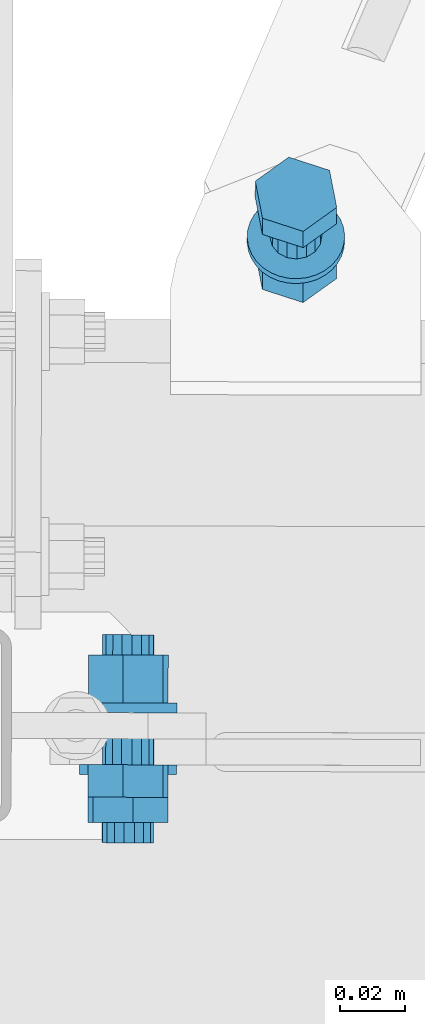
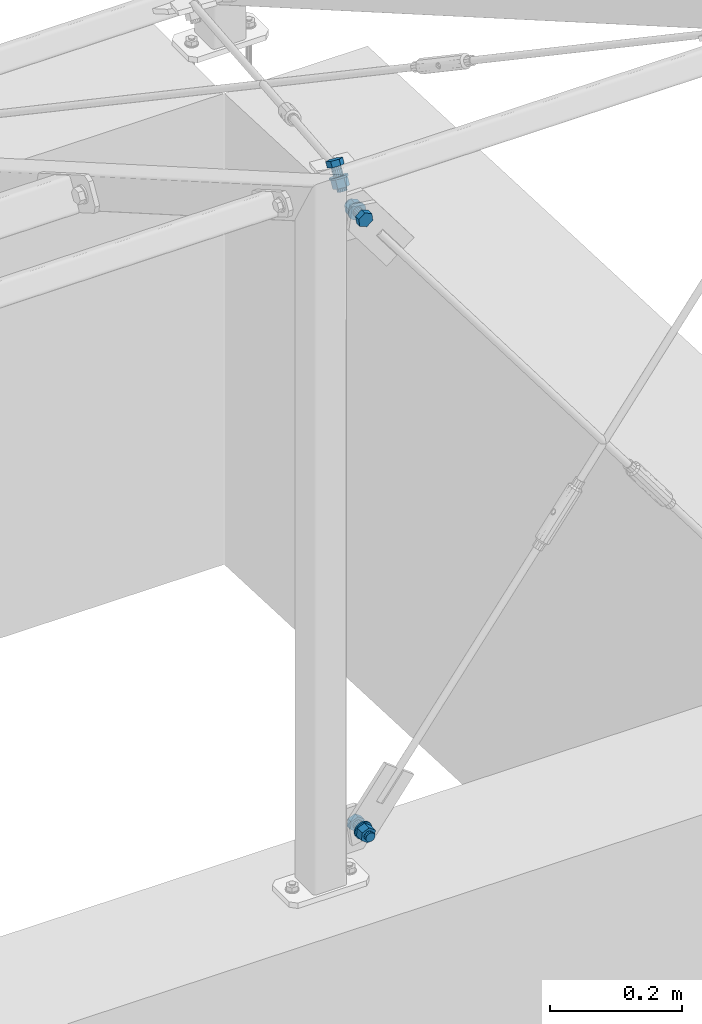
# One storey, part 226 of 288: 3 mechanical fasteners.
"""IFC2X3 building model written with IfcOpenShell, lengths in millimetres."""

from ifc_helpers import new_model, entity, si_unit, converted_unit, origin_with_axes, place, context, project, spatial, faceted_brep, element, save


model = new_model("IFC2X3")

# Units and contexts
model_context = context("Model", 3, precision=1e-09, world=origin_with_axes())
ifc_project = project(units=[si_unit("LENGTHUNIT", "METRE", prefix="MILLI"), si_unit("AREAUNIT", "SQUARE_METRE"), si_unit("VOLUMEUNIT", "CUBIC_METRE"), converted_unit("PLANEANGLEUNIT", "DEGREE", entity("IfcPlaneAngleMeasure", 0.01745329), si_unit("PLANEANGLEUNIT", "RADIAN"), dimensions=[0, 0, 0, 0, 0, 0, 0])], contexts=[model_context])

# Site, building, storey
site_placement = place(None, origin_with_axes())
site = spatial("IfcSite", under=ifc_project, at=site_placement, Name="Remont ?wietlik?w nad MC w NCPP w Opolu", CompositionType="ELEMENT")
building_placement = place(site_placement, origin_with_axes())
building = spatial("IfcBuilding", under=site, at=building_placement, Name="Konstrukcja 1", CompositionType="ELEMENT")
storey_placement = place(building_placement, origin_with_axes())
storey = spatial("IfcBuildingStorey", under=building, at=storey_placement, Name="Default Storey", CompositionType="ELEMENT", Elevation=0.0)

# Mechanical fasteners
mechanical_fastener_1_placement = place(None, origin_with_axes())
element("IfcMechanicalFastener", 1, at=mechanical_fastener_1_placement, inside=storey, ObjectType="Bolt#1", NominalDiameter=16.0, NominalLength=40.0, context=model_context, shape_type="Brep", body=[
    faceted_brep([(10182.727743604, -143.96378744, 101.402567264), (10182.750206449, -133.963812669, 101.402567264), (10170.455755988, -133.936195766, 96.136036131), (10170.433293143, -143.936170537, 96.136036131), (10168.869469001, -133.932632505, 82.855437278), (10168.847006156, -143.932607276, 82.855437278), (10179.577632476, -133.956686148, 74.841369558), (10179.555169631, -143.956660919, 74.841369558), (10191.872082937, -133.984303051, 80.10790069), (10191.849620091, -143.984277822, 80.10790069), (10193.458369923, -133.987866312, 93.388499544), (10193.435907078, -143.987841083, 93.388499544)], [[[0, 1, 2, 3]], [[3, 2, 4, 5]], [[5, 4, 6, 7]], [[7, 6, 8, 9]], [[9, 8, 10, 11]], [[11, 10, 1, 0]], [[4, 2, 1, 10, 8, 6]], [[0, 3, 5, 7, 9, 11]]]),
    faceted_brep([(10176.348007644, -143.949456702, 81.717069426), (10176.312067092, -159.949416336, 81.717069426), (10174.225904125, -159.944730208, 84.038991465), (10174.261844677, -143.944770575, 84.038991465), (10173.187099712, -159.942396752, 86.982509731), (10173.223040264, -143.942437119, 86.982509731), (10173.353802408, -159.942771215, 90.099500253), (10173.38974296, -143.942811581, 90.099500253), (10174.700633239, -159.945796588, 92.915429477), (10174.736573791, -143.945836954, 92.915429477), (10177.02254942, -159.951012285, 95.001597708), (10177.058489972, -143.951052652, 95.001597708), (10179.96606026, -159.957624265, 96.040404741), (10180.002000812, -143.957664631, 96.040404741), (10183.083042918, -159.964625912, 95.873701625), (10183.11898347, -143.964666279, 95.873701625), (10185.898965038, -159.97095129, 94.526867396), (10185.93490559, -143.970991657, 94.526867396), (10187.985128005, -159.975637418, 92.204945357), (10188.021068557, -143.975677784, 92.204945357), (10189.023932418, -159.977970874, 89.26142709), (10189.05987297, -143.97801124, 89.26142709), (10188.857229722, -159.977596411, 86.144436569), (10188.893170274, -143.977636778, 86.144436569), (10187.510398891, -159.974571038, 83.328507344), (10187.546339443, -143.974611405, 83.328507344), (10185.18848271, -159.969355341, 81.242339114), (10185.224423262, -143.969395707, 81.242339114), (10182.24497187, -159.962743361, 80.203532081), (10182.280912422, -143.962783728, 80.203532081), (10179.127989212, -159.955741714, 80.370235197), (10179.163929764, -143.95578208, 80.370235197)], [[[0, 1, 2, 3]], [[3, 2, 4, 5]], [[5, 4, 6, 7]], [[7, 6, 8, 9]], [[9, 8, 10, 11]], [[11, 10, 12, 13]], [[13, 12, 14, 15]], [[15, 14, 16, 17]], [[17, 16, 18, 19]], [[19, 18, 20, 21]], [[21, 20, 22, 23]], [[23, 22, 24, 25]], [[25, 24, 26, 27]], [[27, 26, 28, 29]], [[29, 28, 30, 31]], [[31, 30, 1, 0]], [[0, 3, 5, 7, 9, 11, 13, 15, 17, 19, 21, 23, 25, 27, 29, 31]], [[1, 30, 28, 26, 24, 22, 20, 18, 16, 14, 12, 10, 8, 6, 4, 2]]]),
    faceted_brep([(10172.11779924, -159.939994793, 76.112782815), (10172.111060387, -162.939987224, 76.112782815), (10169.940886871, -162.935112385, 78.096956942), (10169.947625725, -159.935119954, 78.096956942), (10168.199504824, -162.931200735, 80.466386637), (10168.206243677, -159.931208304, 80.466386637), (10166.95383458, -162.928402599, 83.130016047), (10166.960573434, -159.928410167, 83.130016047), (10166.25174655, -162.926825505, 85.985483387), (10166.258485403, -159.926833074, 85.985483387), (10166.120221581, -162.926530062, 88.923054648), (10166.126960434, -159.926537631, 88.923054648), (10166.564314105, -162.927527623, 91.829840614), (10166.571052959, -159.927535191, 91.829840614), (10167.566957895, -162.929779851, 94.594135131), (10167.573696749, -159.92978742, 94.594135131), (10169.089621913, -162.933200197, 97.109707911), (10169.096360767, -159.933207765, 97.109707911), (10171.073791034, -162.937657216, 99.279886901), (10171.080529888, -159.937664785, 99.279886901), (10173.443214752, -162.94297963, 101.021273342), (10173.449953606, -159.942987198, 101.021273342), (10176.106837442, -162.948962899, 102.266946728), (10176.113576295, -159.948970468, 102.266946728), (10178.962297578, -162.955377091, 102.96903653), (10178.969036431, -159.95538466, 102.96903653), (10181.899861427, -162.961975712, 103.100561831), (10181.906600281, -159.961983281, 103.100561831), (10184.80664006, -162.96850518, 102.656468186), (10184.813378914, -159.968512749, 102.656468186), (10187.570927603, -162.974714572, 101.653821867), (10187.577666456, -159.974722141, 101.653821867), (10190.086494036, -162.980365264, 100.131154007), (10190.093232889, -159.980372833, 100.131154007), (10192.256667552, -162.985240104, 98.14697988), (10192.263406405, -159.985247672, 98.14697988), (10193.998049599, -162.989151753, 95.777550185), (10194.004788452, -159.989159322, 95.777550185), (10195.243719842, -162.99194989, 93.113920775), (10195.250458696, -159.991957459, 93.113920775), (10195.945807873, -162.993526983, 90.258453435), (10195.952546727, -159.993534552, 90.258453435), (10196.077332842, -162.993822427, 87.320882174), (10196.084071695, -159.993829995, 87.320882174), (10195.633240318, -162.992824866, 84.414096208), (10195.639979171, -159.992832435, 84.414096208), (10194.630596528, -162.990572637, 81.649801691), (10194.637335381, -159.990580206, 81.649801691), (10193.10793251, -162.987152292, 79.134228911), (10193.114671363, -159.987159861, 79.134228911), (10191.123763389, -162.982695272, 76.96404992), (10191.130502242, -159.982702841, 76.96404992), (10188.754339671, -162.977372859, 75.22266348), (10188.761078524, -159.977380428, 75.22266348), (10186.090716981, -162.97138959, 73.976990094), (10186.097455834, -159.971397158, 73.976990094), (10183.235256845, -162.964975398, 73.274900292), (10183.241995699, -159.964982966, 73.274900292), (10180.297692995, -162.958376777, 73.143374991), (10180.304431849, -159.958384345, 73.143374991), (10177.390914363, -162.951847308, 73.587468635), (10177.397653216, -159.951854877, 73.587468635), (10174.62662682, -162.945637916, 74.590114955), (10174.633365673, -159.945645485, 74.590114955)], [[[0, 1, 2, 3]], [[3, 2, 4, 5]], [[5, 4, 6, 7]], [[7, 6, 8, 9]], [[9, 8, 10, 11]], [[11, 10, 12, 13]], [[13, 12, 14, 15]], [[15, 14, 16, 17]], [[17, 16, 18, 19]], [[19, 18, 20, 21]], [[21, 20, 22, 23]], [[23, 22, 24, 25]], [[25, 24, 26, 27]], [[27, 26, 28, 29]], [[29, 28, 30, 31]], [[31, 30, 32, 33]], [[33, 32, 34, 35]], [[35, 34, 36, 37]], [[37, 36, 38, 39]], [[39, 38, 40, 41]], [[41, 40, 42, 43]], [[43, 42, 44, 45]], [[45, 44, 46, 47]], [[47, 46, 48, 49]], [[49, 48, 50, 51]], [[51, 50, 52, 53]], [[53, 52, 54, 55]], [[55, 54, 56, 57]], [[57, 56, 58, 59]], [[59, 58, 60, 61]], [[61, 60, 62, 63]], [[63, 62, 1, 0]], [[0, 3, 5, 7, 9, 11, 13, 15, 17, 19, 21, 23, 25, 27, 29, 31, 33, 35, 37, 39, 41, 43, 45, 47, 49, 51, 53, 55, 57, 59, 61, 63]], [[1, 62, 60, 58, 56, 54, 52, 50, 48, 46, 44, 42, 40, 38, 36, 34, 32, 30, 28, 26, 24, 22, 20, 18, 16, 14, 12, 10, 8, 6, 4, 2]]]),
    faceted_brep([(10182.651819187, -177.763702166, 101.402567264), (10182.685064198, -162.963739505, 101.402567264), (10170.390613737, -162.936122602, 96.136036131), (10170.357368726, -177.736085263, 96.136036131), (10168.804326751, -162.932559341, 82.855437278), (10168.77108174, -177.732522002, 82.855437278), (10179.512490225, -162.956612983, 74.841369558), (10179.479245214, -177.756575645, 74.841369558), (10191.806940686, -162.984229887, 80.10790069), (10191.773695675, -177.784192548, 80.10790069), (10193.393227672, -162.987793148, 93.388499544), (10193.359982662, -177.787755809, 93.388499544)], [[[0, 1, 2, 3]], [[3, 2, 4, 5]], [[5, 4, 6, 7]], [[7, 6, 8, 9]], [[9, 8, 10, 11]], [[11, 10, 1, 0]], [[4, 2, 1, 10, 8, 6]], [[0, 3, 5, 7, 9, 11]]]),
    faceted_brep([(10176.272083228, -177.749371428, 81.717069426), (10176.258156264, -183.949355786, 81.717069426), (10174.171993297, -183.944669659, 84.038991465), (10174.185920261, -177.744685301, 84.038991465), (10173.133188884, -183.942336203, 86.982509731), (10173.147115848, -177.742351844, 86.982509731), (10173.29989158, -183.942710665, 90.099500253), (10173.313818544, -177.742726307, 90.099500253), (10174.646722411, -183.945736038, 92.915429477), (10174.660649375, -177.74575168, 92.915429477), (10176.968638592, -183.950951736, 95.001597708), (10176.982565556, -177.750967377, 95.001597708), (10179.912149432, -183.957563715, 96.040404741), (10179.926076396, -177.757579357, 96.040404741), (10183.029132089, -183.964565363, 95.873701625), (10183.043059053, -177.764581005, 95.873701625), (10185.84505421, -183.970890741, 94.526867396), (10185.858981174, -177.770906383, 94.526867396), (10187.931217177, -183.975576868, 92.204945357), (10187.945144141, -177.77559251, 92.204945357), (10188.97002159, -183.977910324, 89.26142709), (10188.983948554, -177.777925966, 89.26142709), (10188.803318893, -183.977535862, 86.144436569), (10188.817245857, -177.777551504, 86.144436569), (10187.456488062, -183.974510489, 83.328507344), (10187.470415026, -177.774526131, 83.328507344), (10185.134571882, -183.969294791, 81.242339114), (10185.148498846, -177.769310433, 81.242339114), (10182.191061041, -183.962682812, 80.203532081), (10182.204988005, -177.762698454, 80.203532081), (10179.074078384, -183.955681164, 80.370235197), (10179.088005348, -177.755696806, 80.370235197)], [[[0, 1, 2, 3]], [[3, 2, 4, 5]], [[5, 4, 6, 7]], [[7, 6, 8, 9]], [[9, 8, 10, 11]], [[11, 10, 12, 13]], [[13, 12, 14, 15]], [[15, 14, 16, 17]], [[17, 16, 18, 19]], [[19, 18, 20, 21]], [[21, 20, 22, 23]], [[23, 22, 24, 25]], [[25, 24, 26, 27]], [[27, 26, 28, 29]], [[29, 28, 30, 31]], [[31, 30, 1, 0]], [[0, 3, 5, 7, 9, 11, 13, 15, 17, 19, 21, 23, 25, 27, 29, 31]], [[1, 30, 28, 26, 24, 22, 20, 18, 16, 14, 12, 10, 8, 6, 4, 2]]]),
])
mechanical_fastener_2_placement = place(None, origin_with_axes())
element("IfcMechanicalFastener", 2, at=mechanical_fastener_2_placement, inside=storey, ObjectType="Bolt#1", NominalDiameter=16.0, NominalLength=40.0, context=model_context, shape_type="Brep", body=[
    faceted_brep([(10182.691707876, -159.95056203, 1206.597433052), (10182.668932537, -169.950536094, 1206.597433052), (10170.374482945, -169.922534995, 1211.863964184), (10170.397258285, -159.922560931, 1211.863964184), (10168.788196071, -169.918922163, 1225.144563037), (10168.81097141, -159.918948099, 1225.144563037), (10179.496358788, -169.943310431, 1233.158630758), (10179.519134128, -159.943336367, 1233.158630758), (10191.79080838, -169.97131153, 1227.892099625), (10191.81358372, -159.971337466, 1227.892099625), (10193.377095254, -169.974924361, 1214.611500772), (10193.399870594, -159.974950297, 1214.611500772)], [[[0, 1, 2, 3]], [[3, 2, 4, 5]], [[5, 4, 6, 7]], [[7, 6, 8, 9]], [[9, 8, 10, 11]], [[11, 10, 1, 0]], [[4, 2, 1, 10, 8, 6]], [[0, 3, 5, 7, 9, 11]]]),
    faceted_brep([(10176.311972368, -159.936031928, 1226.282930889), (10176.348412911, -143.936073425, 1226.282930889), (10174.262250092, -143.931322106, 1223.961008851), (10174.225809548, -159.931280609, 1223.961008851), (10173.223445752, -143.928956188, 1221.017490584), (10173.187005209, -159.928914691, 1221.017490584), (10173.390148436, -143.92933586, 1217.900500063), (10173.353707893, -159.929294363, 1217.900500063), (10174.736979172, -143.932403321, 1215.084570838), (10174.700538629, -159.932361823, 1215.084570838), (10177.058895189, -143.937691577, 1212.998402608), (10177.022454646, -159.93765008, 1212.998402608), (10180.002405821, -143.94439554, 1211.959595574), (10179.965965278, -159.944354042, 1211.959595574), (10183.119388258, -143.951494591, 1212.126298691), (10183.082947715, -159.951453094, 1212.126298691), (10185.93531018, -143.957907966, 1213.47313292), (10185.898869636, -159.957866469, 1213.47313292), (10188.021472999, -143.962659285, 1215.795054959), (10187.985032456, -159.962617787, 1215.795054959), (10189.060277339, -143.965025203, 1218.738573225), (10189.023836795, -159.964983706, 1218.738573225), (10188.893574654, -143.964645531, 1221.855563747), (10188.857134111, -159.964604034, 1221.855563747), (10187.546743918, -143.96157807, 1224.671492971), (10187.510303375, -159.961536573, 1224.671492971), (10185.224827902, -143.956289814, 1226.757661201), (10185.188387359, -159.956248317, 1226.757661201), (10182.28131727, -143.949585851, 1227.796468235), (10182.244876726, -159.949544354, 1227.796468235), (10179.164334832, -143.9424868, 1227.629765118), (10179.127894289, -159.942445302, 1227.629765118)], [[[0, 1, 2, 3]], [[3, 2, 4, 5]], [[5, 4, 6, 7]], [[7, 6, 8, 9]], [[9, 8, 10, 11]], [[11, 10, 12, 13]], [[13, 12, 14, 15]], [[15, 14, 16, 17]], [[17, 16, 18, 19]], [[19, 18, 20, 21]], [[21, 20, 22, 23]], [[23, 22, 24, 25]], [[25, 24, 26, 27]], [[27, 26, 28, 29]], [[29, 28, 30, 31]], [[31, 30, 1, 0]], [[0, 3, 5, 7, 9, 11, 13, 15, 17, 19, 21, 23, 25, 27, 29, 31]], [[1, 30, 28, 26, 24, 22, 20, 18, 16, 14, 12, 10, 8, 6, 4, 2]]]),
    faceted_brep([(10172.154145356, -143.926520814, 1231.887217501), (10172.160977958, -140.926528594, 1231.887217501), (10169.990804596, -140.921585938, 1229.903043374), (10169.983971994, -143.921578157, 1229.903043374), (10168.249422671, -140.917619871, 1227.533613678), (10168.24259007, -143.917612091, 1227.533613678), (10167.003752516, -140.914782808, 1224.869984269), (10166.996919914, -143.914775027, 1224.869984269), (10166.301664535, -140.913183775, 1222.014516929), (10166.294831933, -143.913175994, 1222.014516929), (10166.170139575, -140.912884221, 1219.076945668), (10166.163306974, -143.91287644, 1219.076945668), (10166.614232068, -140.91389566, 1216.170159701), (10166.607399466, -143.913887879, 1216.170159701), (10167.616875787, -140.916179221, 1213.405865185), (10167.610043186, -143.91617144, 1213.405865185), (10169.139539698, -140.919647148, 1210.890292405), (10169.132707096, -143.919639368, 1210.890292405), (10171.123708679, -140.924166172, 1208.720113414), (10171.116876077, -143.924158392, 1208.720113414), (10173.493132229, -140.929562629, 1206.978726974), (10173.486299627, -143.929554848, 1206.978726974), (10176.15675473, -140.935629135, 1205.733053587), (10176.149922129, -143.935621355, 1205.733053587), (10179.012214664, -140.942132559, 1205.030963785), (10179.005382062, -143.942124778, 1205.030963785), (10181.949778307, -140.948822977, 1204.899438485), (10181.942945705, -143.948815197, 1204.899438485), (10184.856556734, -140.955443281, 1205.343532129), (10184.849724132, -143.9554355, 1205.343532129), (10187.620844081, -140.961739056, 1206.346178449), (10187.614011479, -143.961731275, 1206.346178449), (10190.136410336, -140.967468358, 1207.868846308), (10190.129577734, -143.967460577, 1207.868846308), (10192.306583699, -140.972411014, 1209.853020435), (10192.299751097, -143.972403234, 1209.853020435), (10194.047965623, -140.976377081, 1212.222450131), (10194.041133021, -143.9763693, 1212.222450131), (10195.293635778, -140.979214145, 1214.886079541), (10195.286803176, -143.979206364, 1214.886079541), (10195.995723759, -140.980813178, 1217.741546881), (10195.988891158, -143.980805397, 1217.741546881), (10196.127248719, -140.981112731, 1220.679118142), (10196.120416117, -143.981104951, 1220.679118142), (10195.683156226, -140.980101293, 1223.585904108), (10195.676323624, -143.980093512, 1223.585904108), (10194.680512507, -140.977817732, 1226.350198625), (10194.673679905, -143.977809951, 1226.350198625), (10193.157848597, -140.974349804, 1228.865771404), (10193.151015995, -143.974342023, 1228.865771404), (10191.173679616, -140.96983078, 1231.035950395), (10191.166847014, -143.969823, 1231.035950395), (10188.804256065, -140.964434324, 1232.777336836), (10188.797423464, -143.964426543, 1232.777336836), (10186.140633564, -140.958367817, 1234.023010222), (10186.133800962, -143.958360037, 1234.023010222), (10183.28517363, -140.951864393, 1234.725100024), (10183.278341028, -143.951856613, 1234.725100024), (10180.347609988, -140.945173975, 1234.856625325), (10180.340777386, -143.945166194, 1234.856625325), (10177.440831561, -140.938553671, 1234.41253168), (10177.433998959, -143.938545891, 1234.41253168), (10174.676544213, -140.932257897, 1233.40988536), (10174.669711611, -143.932250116, 1233.40988536)], [[[0, 1, 2, 3]], [[3, 2, 4, 5]], [[5, 4, 6, 7]], [[7, 6, 8, 9]], [[9, 8, 10, 11]], [[11, 10, 12, 13]], [[13, 12, 14, 15]], [[15, 14, 16, 17]], [[17, 16, 18, 19]], [[19, 18, 20, 21]], [[21, 20, 22, 23]], [[23, 22, 24, 25]], [[25, 24, 26, 27]], [[27, 26, 28, 29]], [[29, 28, 30, 31]], [[31, 30, 32, 33]], [[33, 32, 34, 35]], [[35, 34, 36, 37]], [[37, 36, 38, 39]], [[39, 38, 40, 41]], [[41, 40, 42, 43]], [[43, 42, 44, 45]], [[45, 44, 46, 47]], [[47, 46, 48, 49]], [[49, 48, 50, 51]], [[51, 50, 52, 53]], [[53, 52, 54, 55]], [[55, 54, 56, 57]], [[57, 56, 58, 59]], [[59, 58, 60, 61]], [[61, 60, 62, 63]], [[63, 62, 1, 0]], [[0, 3, 5, 7, 9, 11, 13, 15, 17, 19, 21, 23, 25, 27, 29, 31, 33, 35, 37, 39, 41, 43, 45, 47, 49, 51, 53, 55, 57, 59, 61, 63]], [[1, 62, 60, 58, 56, 54, 52, 50, 48, 46, 44, 42, 40, 38, 36, 34, 32, 30, 28, 26, 24, 22, 20, 18, 16, 14, 12, 10, 8, 6, 4, 2]]]),
    faceted_brep([(10182.768688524, -126.150649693, 1206.597433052), (10182.734981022, -140.950611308, 1206.597433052), (10170.44053143, -140.922610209, 1211.863964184), (10170.474238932, -126.122648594, 1211.863964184), (10168.854244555, -140.918997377, 1225.144563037), (10168.887952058, -126.119035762, 1225.144563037), (10179.562407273, -140.943385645, 1233.158630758), (10179.596114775, -126.14342403, 1233.158630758), (10191.856856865, -140.971386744, 1227.892099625), (10191.890564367, -126.171425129, 1227.892099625), (10193.443143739, -140.974999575, 1214.611500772), (10193.476851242, -126.17503796, 1214.611500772)], [[[0, 1, 2, 3]], [[3, 2, 4, 5]], [[5, 4, 6, 7]], [[7, 6, 8, 9]], [[9, 8, 10, 11]], [[11, 10, 1, 0]], [[4, 2, 1, 10, 8, 6]], [[0, 3, 5, 7, 9, 11]]]),
    faceted_brep([(10176.388953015, -126.136119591, 1226.282930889), (10176.403073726, -119.936135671, 1226.282930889), (10174.316910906, -119.931384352, 1223.961008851), (10174.302790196, -126.131368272, 1223.961008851), (10173.278106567, -119.929018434, 1221.017490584), (10173.263985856, -126.129002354, 1221.017490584), (10173.444809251, -119.929398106, 1217.900500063), (10173.430688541, -126.129382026, 1217.900500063), (10174.791639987, -119.932465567, 1215.084570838), (10174.777519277, -126.132449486, 1215.084570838), (10177.113556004, -119.937753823, 1212.998402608), (10177.099435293, -126.137737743, 1212.998402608), (10180.057066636, -119.944457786, 1211.959595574), (10180.042945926, -126.144441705, 1211.959595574), (10183.174049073, -119.951556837, 1212.126298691), (10183.159928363, -126.151540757, 1212.126298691), (10185.989970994, -119.957970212, 1213.47313292), (10185.975850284, -126.157954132, 1213.47313292), (10188.076133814, -119.962721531, 1215.795054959), (10188.062013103, -126.162705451, 1215.795054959), (10189.114938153, -119.965087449, 1218.738573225), (10189.100817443, -126.165071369, 1218.738573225), (10188.948235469, -119.964707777, 1221.855563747), (10188.934114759, -126.164691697, 1221.855563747), (10187.601404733, -119.961640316, 1224.671492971), (10187.587284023, -126.161624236, 1224.671492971), (10185.279488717, -119.95635206, 1226.757661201), (10185.265368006, -126.15633598, 1226.757661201), (10182.335978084, -119.949648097, 1227.796468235), (10182.321857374, -126.149632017, 1227.796468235), (10179.218995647, -119.942549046, 1227.629765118), (10179.204874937, -126.142532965, 1227.629765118)], [[[0, 1, 2, 3]], [[3, 2, 4, 5]], [[5, 4, 6, 7]], [[7, 6, 8, 9]], [[9, 8, 10, 11]], [[11, 10, 12, 13]], [[13, 12, 14, 15]], [[15, 14, 16, 17]], [[17, 16, 18, 19]], [[19, 18, 20, 21]], [[21, 20, 22, 23]], [[23, 22, 24, 25]], [[25, 24, 26, 27]], [[27, 26, 28, 29]], [[29, 28, 30, 31]], [[31, 30, 1, 0]], [[0, 3, 5, 7, 9, 11, 13, 15, 17, 19, 21, 23, 25, 27, 29, 31]], [[1, 30, 28, 26, 24, 22, 20, 18, 16, 14, 12, 10, 8, 6, 4, 2]]]),
])
mechanical_fastener_3_placement = place(None, origin_with_axes())
element("IfcMechanicalFastener", 3, at=mechanical_fastener_3_placement, inside=storey, ObjectType="Bolt#1", NominalDiameter=16.0, NominalLength=40.0, context=model_context, shape_type="Brep", body=[
    faceted_brep([(10243.074187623, 17.947610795, 1187.988867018), (10243.085459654, 22.947595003, 1196.649122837), (10245.30944875, 11.524494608, 1203.241336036), (10245.298176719, 6.5245104, 1194.581080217), (10234.999613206, 4.151387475, 1207.511606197), (10234.988341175, -0.848596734, 1198.851350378), (10222.465788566, 8.201380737, 1205.18966316), (10222.454516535, 3.201396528, 1196.529407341), (10220.24179947, 19.624481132, 1198.597449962), (10220.230527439, 14.624496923, 1189.937194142), (10230.551635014, 26.997588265, 1194.3271798), (10230.540362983, 21.997604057, 1185.666923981)], [[[0, 1, 2, 3]], [[3, 2, 4, 5]], [[5, 4, 6, 7]], [[7, 6, 8, 9]], [[9, 8, 10, 11]], [[11, 10, 1, 0]], [[4, 2, 1, 10, 8, 6]], [[0, 3, 5, 7, 9, 11]]]),
    faceted_brep([(10229.972058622, 4.083590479, 1196.010289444), (10229.954023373, -3.916384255, 1182.153880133), (10233.035500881, -4.349315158, 1182.399821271), (10233.05353613, 3.650659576, 1196.256230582), (10236.072952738, -3.728153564, 1182.037241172), (10236.090987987, 4.27182117, 1195.893650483), (10238.603954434, -2.147465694, 1181.12133937), (10238.621989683, 5.85250904, 1194.97774868), (10240.243183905, 0.152103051, 1179.79155361), (10240.261219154, 8.152077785, 1193.647962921), (10240.741083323, 2.820464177, 1178.250331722), (10240.759118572, 10.820438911, 1192.106741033), (10240.021852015, 5.451383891, 1176.732310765), (10240.039887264, 13.451358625, 1190.588720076), (10238.194986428, 7.644328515, 1175.46859567), (10238.213021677, 15.644303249, 1189.325004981), (10235.538610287, 9.06544211, 1174.651575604), (10235.556645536, 17.065416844, 1188.507984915), (10232.45713278, 9.498373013, 1174.405634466), (10232.475168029, 17.498347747, 1188.262043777), (10229.419680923, 8.877211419, 1174.768214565), (10229.437716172, 16.877186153, 1188.624623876), (10226.888679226, 7.29652355, 1175.684116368), (10226.906714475, 15.296498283, 1189.540525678), (10225.249449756, 4.996954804, 1177.013902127), (10225.267485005, 12.996929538, 1190.870311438), (10224.751550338, 2.328593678, 1178.555124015), (10224.769585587, 10.328568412, 1192.411533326), (10225.470781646, -0.302326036, 1180.073144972), (10225.488816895, 7.697648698, 1193.929554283), (10227.297647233, -2.49527066, 1181.336860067), (10227.315682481, 5.504704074, 1195.193269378)], [[[0, 1, 2, 3]], [[3, 2, 4, 5]], [[5, 4, 6, 7]], [[7, 6, 8, 9]], [[9, 8, 10, 11]], [[11, 10, 12, 13]], [[13, 12, 14, 15]], [[15, 14, 16, 17]], [[17, 16, 18, 19]], [[19, 18, 20, 21]], [[21, 20, 22, 23]], [[23, 22, 24, 25]], [[25, 24, 26, 27]], [[27, 26, 28, 29]], [[29, 28, 30, 31]], [[31, 30, 1, 0]], [[0, 3, 5, 7, 9, 11, 13, 15, 17, 19, 21, 23, 25, 27, 29, 31]], [[1, 30, 28, 26, 24, 22, 20, 18, 16, 14, 12, 10, 8, 6, 4, 2]]]),
    faceted_brep([(10227.510766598, -9.595933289, 1185.436138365), (10227.507384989, -11.095928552, 1182.838061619), (10230.350296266, -11.748186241, 1183.210941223), (10230.353677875, -10.248190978, 1185.809017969), (10233.285155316, -11.907673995, 1183.299201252), (10233.288536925, -10.407678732, 1185.897277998), (10236.199177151, -11.568262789, 1183.099449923), (10236.20255876, -10.068267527, 1185.697526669), (10238.980377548, -10.742996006, 1182.619363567), (10238.983759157, -9.243000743, 1185.217440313), (10241.521876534, -9.463588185, 1181.877391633), (10241.525258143, -7.963592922, 1184.475468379), (10243.726005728, -7.779206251, 1180.902047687), (10243.729387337, -6.279210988, 1183.500124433), (10245.508061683, -5.754580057, 1179.73081365), (10245.511443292, -4.254584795, 1182.328890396), (10246.799560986, -3.467514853, 1178.408699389), (10246.802942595, -1.96751959, 1181.006776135), (10247.550872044, -1.005901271, 1176.986513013), (10247.554253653, 0.494093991, 1179.584589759), (10247.733122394, 1.535662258, 1175.518908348), (10247.736504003, 3.035657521, 1178.116985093), (10247.339308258, 4.059504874, 1174.062284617), (10247.342689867, 5.559500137, 1176.660361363), (10246.384563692, 6.468636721, 1172.672619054), (10246.387945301, 7.968631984, 1175.270695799), (10244.905578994, 8.670476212, 1171.403315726), (10244.908960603, 10.170471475, 1174.001392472), (10242.959190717, 10.580407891, 1170.30315325), (10242.962572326, 12.080403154, 1172.901229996), (10240.62019747, 12.125034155, 1169.414410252), (10240.623579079, 13.625029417, 1172.012486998), (10237.978485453, 13.244995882, 1168.771240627), (10237.981867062, 14.744991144, 1171.369317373), (10235.135574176, 13.897253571, 1168.398361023), (10235.138955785, 15.397248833, 1170.996437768), (10232.200715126, 14.056741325, 1168.310100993), (10232.204096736, 15.556736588, 1170.908177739), (10229.286693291, 13.717330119, 1168.509852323), (10229.2900749, 15.217325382, 1171.107929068), (10226.505492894, 12.892063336, 1168.989938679), (10226.508874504, 14.392058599, 1171.588015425), (10223.963993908, 11.612655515, 1169.731910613), (10223.967375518, 13.112650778, 1172.329987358), (10221.759864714, 9.928273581, 1170.707254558), (10221.763246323, 11.428268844, 1173.305331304), (10219.97780876, 7.903647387, 1171.878488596), (10219.981190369, 9.40364265, 1174.476565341), (10218.686309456, 5.616582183, 1173.200602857), (10218.689691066, 7.116577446, 1175.798679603), (10217.934998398, 3.154968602, 1174.622789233), (10217.938380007, 4.654963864, 1177.220865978), (10217.752748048, 0.613405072, 1176.090393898), (10217.756129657, 2.113400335, 1178.688470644), (10218.146562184, -1.910437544, 1177.547017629), (10218.149943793, -0.410442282, 1180.145094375), (10219.10130675, -4.319569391, 1178.936683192), (10219.104688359, -2.819574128, 1181.534759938), (10220.580291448, -6.521408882, 1180.205986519), (10220.583673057, -5.02141362, 1182.804063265), (10222.526679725, -8.431340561, 1181.306148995), (10222.530061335, -6.931345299, 1183.904225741), (10224.865672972, -9.975966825, 1182.194891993), (10224.869054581, -8.475971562, 1184.792968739)], [[[0, 1, 2, 3]], [[3, 2, 4, 5]], [[5, 4, 6, 7]], [[7, 6, 8, 9]], [[9, 8, 10, 11]], [[11, 10, 12, 13]], [[13, 12, 14, 15]], [[15, 14, 16, 17]], [[17, 16, 18, 19]], [[19, 18, 20, 21]], [[21, 20, 22, 23]], [[23, 22, 24, 25]], [[25, 24, 26, 27]], [[27, 26, 28, 29]], [[29, 28, 30, 31]], [[31, 30, 32, 33]], [[33, 32, 34, 35]], [[35, 34, 36, 37]], [[37, 36, 38, 39]], [[39, 38, 40, 41]], [[41, 40, 42, 43]], [[43, 42, 44, 45]], [[45, 44, 46, 47]], [[47, 46, 48, 49]], [[49, 48, 50, 51]], [[51, 50, 52, 53]], [[53, 52, 54, 55]], [[55, 54, 56, 57]], [[57, 56, 58, 59]], [[59, 58, 60, 61]], [[61, 60, 62, 63]], [[63, 62, 1, 0]], [[0, 3, 5, 7, 9, 11, 13, 15, 17, 19, 21, 23, 25, 27, 29, 31, 33, 35, 37, 39, 41, 43, 45, 47, 49, 51, 53, 55, 57, 59, 61, 63]], [[1, 62, 60, 58, 56, 54, 52, 50, 48, 46, 44, 42, 40, 38, 36, 34, 32, 30, 28, 26, 24, 22, 20, 18, 16, 14, 12, 10, 8, 6, 4, 2]]]),
    faceted_brep([(10243.03608816, 1.04766417, 1158.717202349), (10243.052770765, 8.447640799, 1171.534380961), (10245.276759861, -2.975459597, 1178.12659416), (10245.260077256, -10.375436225, 1165.309415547), (10234.966924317, -10.34856673, 1182.396864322), (10234.950241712, -17.748543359, 1169.579685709), (10222.433099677, -6.298573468, 1180.074921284), (10222.416417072, -13.698550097, 1167.257742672), (10220.209110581, 5.124526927, 1173.482708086), (10220.192427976, -2.275449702, 1160.665529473), (10230.518946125, 12.49763406, 1169.212437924), (10230.50226352, 5.097657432, 1156.395259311)], [[[0, 1, 2, 3]], [[3, 2, 4, 5]], [[5, 4, 6, 7]], [[7, 6, 8, 9]], [[9, 8, 10, 11]], [[11, 10, 1, 0]], [[4, 2, 1, 10, 8, 6]], [[0, 3, 5, 7, 9, 11]]]),
    faceted_brep([(10229.933959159, -12.816356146, 1166.738624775), (10229.9269705, -15.916346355, 1161.369266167), (10233.008448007, -16.349277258, 1161.615207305), (10233.015436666, -13.249287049, 1166.984565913), (10236.045899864, -15.728115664, 1161.252627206), (10236.052888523, -12.628125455, 1166.621985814), (10238.576901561, -14.147427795, 1160.336725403), (10238.58389022, -11.047437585, 1165.706084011), (10240.216131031, -11.847859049, 1159.006939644), (10240.22311969, -8.74786884, 1164.376298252), (10240.714030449, -9.179497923, 1157.465717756), (10240.721019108, -6.079507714, 1162.835076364), (10239.994799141, -6.54857821, 1155.947696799), (10240.0017878, -3.448588, 1161.317055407), (10238.167933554, -4.355633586, 1154.683981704), (10238.174922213, -1.255643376, 1160.053340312), (10235.511557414, -2.934519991, 1153.866961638), (10235.518546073, 0.165470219, 1159.236320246), (10232.430079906, -2.501589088, 1153.6210205), (10232.437068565, 0.598401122, 1158.990379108), (10229.392628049, -3.122750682, 1153.983600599), (10229.399616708, -0.022760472, 1159.352959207), (10226.861626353, -4.703438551, 1154.899502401), (10226.868615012, -1.603448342, 1160.268861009), (10225.222396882, -7.003007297, 1156.22928816), (10225.229385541, -3.903017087, 1161.598646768), (10224.724497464, -9.671368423, 1157.770510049), (10224.731486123, -6.571378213, 1163.139868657), (10225.443728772, -12.302288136, 1159.288531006), (10225.450717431, -9.202297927, 1164.657889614), (10227.270594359, -14.49523276, 1160.552246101), (10227.277583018, -11.395242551, 1165.921604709)], [[[0, 1, 2, 3]], [[3, 2, 4, 5]], [[5, 4, 6, 7]], [[7, 6, 8, 9]], [[9, 8, 10, 11]], [[11, 10, 12, 13]], [[13, 12, 14, 15]], [[15, 14, 16, 17]], [[17, 16, 18, 19]], [[19, 18, 20, 21]], [[21, 20, 22, 23]], [[23, 22, 24, 25]], [[25, 24, 26, 27]], [[27, 26, 28, 29]], [[29, 28, 30, 31]], [[31, 30, 1, 0]], [[0, 3, 5, 7, 9, 11, 13, 15, 17, 19, 21, 23, 25, 27, 29, 31]], [[1, 30, 28, 26, 24, 22, 20, 18, 16, 14, 12, 10, 8, 6, 4, 2]]]),
])

save(model, "model.ifc")
